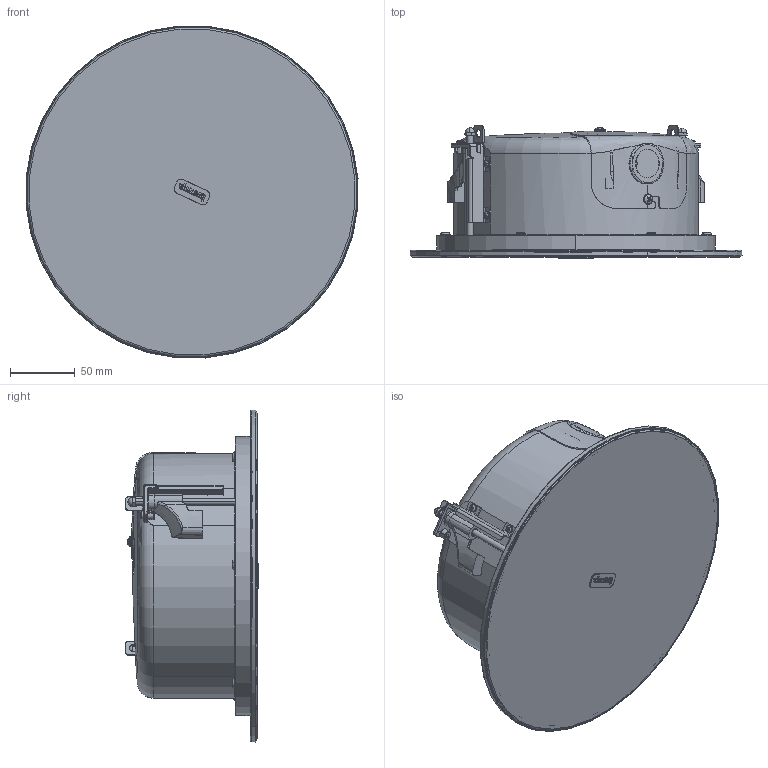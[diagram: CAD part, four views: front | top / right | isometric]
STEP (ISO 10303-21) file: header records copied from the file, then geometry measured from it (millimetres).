
FILE_DESCRIPTION (( 'STEP AP214' ), '1' );
FILE_NAME ('851.0558_DX-IC4LP_defeatured_WEB.90A.step', '2022-08-15T20:03:21', ( '' ), ( '' ), 'SwSTEP 2.0', 'SolidWorks 2021', '' );
FILE_SCHEMA (( 'AUTOMOTIVE_DESIGN' ));
Length unit declared in the file: millimetre
Products named in the file (1): 851.0558_DX-IC4LP_defeatured_WEB.90A
Bounding box: 257.21 x 103.35 x 257.21 mm (x, y, z)
Volume: 2813872.2 mm3; surface area: 317384.5 mm2
Topology: 7 solids, 11 shells, 2095 faces, 5312 edges, 3337 vertices
Faces by surface type: plane 835, cylinder 629, cone 254, bspline 254, torus 85, sphere 38
Entity records: 108853 total; most frequent: CARTESIAN_POINT 37815, ORIENTED_EDGE 10576, DIRECTION 9499, EDGE_CURVE 5288, AXIS2_PLACEMENT_3D 3551, VERTEX_POINT 3323, VECTOR 2397, LINE 2397
